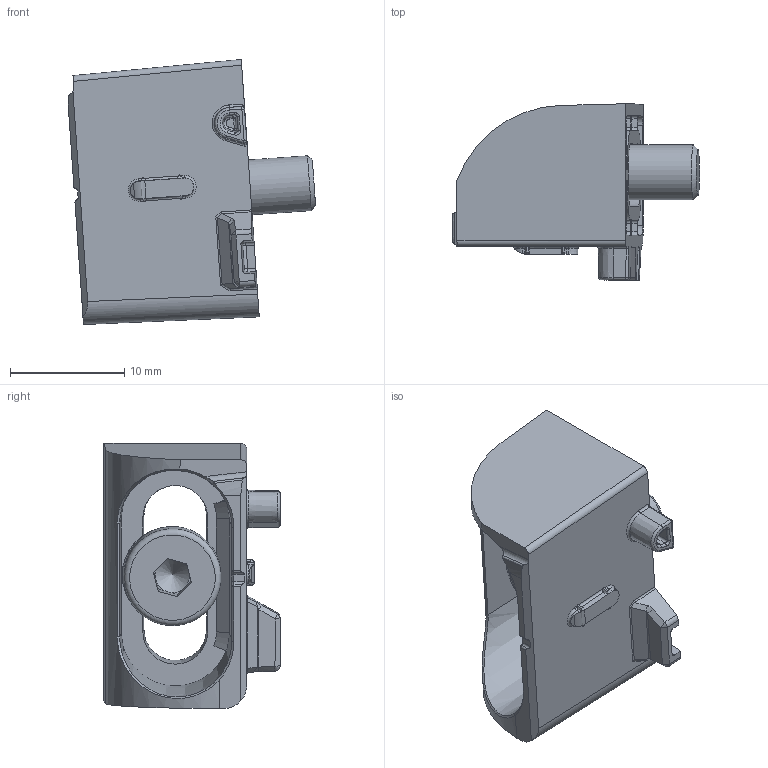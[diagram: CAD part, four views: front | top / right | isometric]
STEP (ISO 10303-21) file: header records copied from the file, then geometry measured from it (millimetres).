
FILE_DESCRIPTION(/* description */ (''),/* implementation_level */ '2;1');
FILE_NAME(/* name */ 'DSD-0657 (SLIM O bracket left side).stp',/* time_stamp */ '2015-03-16T11:06:27+01:00',/* author */ (''),/* organization */ (''),/* preprocessor_version */ 'ST-DEVELOPER v11',/* originating_system */ 'SIEMENS PLM Software NX 7.5',/* authorisation */ '');
FILE_SCHEMA (('AUTOMOTIVE_DESIGN { 1 0 10303 214 1 1 1 1 }'));
Length unit declared in the file: millimetre
Products named in the file (1): AP008234_00
Bounding box: 21.65 x 15.43 x 23.22 mm (x, y, z)
Surface area: 2722.5 mm2 (no closed solid volume)
Topology: 0 solids, 4 shells, 323 faces, 801 edges, 475 vertices
Faces by surface type: plane 116, cylinder 98, bspline 55, cone 30, torus 18, sphere 6
Full cylindrical faces by diameter (mm): 4.826 x1, 5 x1, 5.3 x1, 8.5 x2
Entity records: 10854 total; most frequent: CARTESIAN_POINT 3590, DIRECTION 1490, ORIENTED_EDGE 1487, EDGE_CURVE 760, AXIS2_PLACEMENT_3D 570, VERTEX_POINT 469, EDGE_LOOP 359, LINE 350
